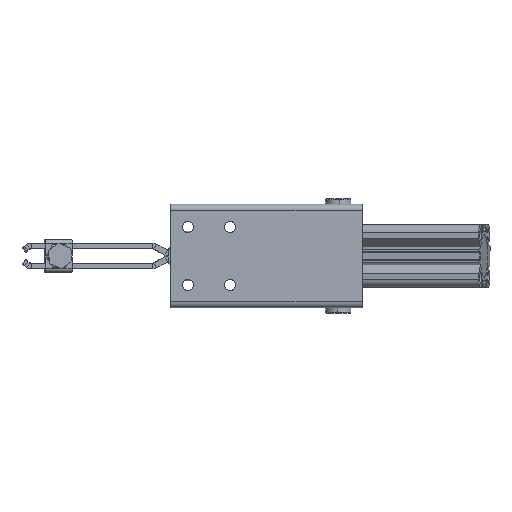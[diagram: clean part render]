
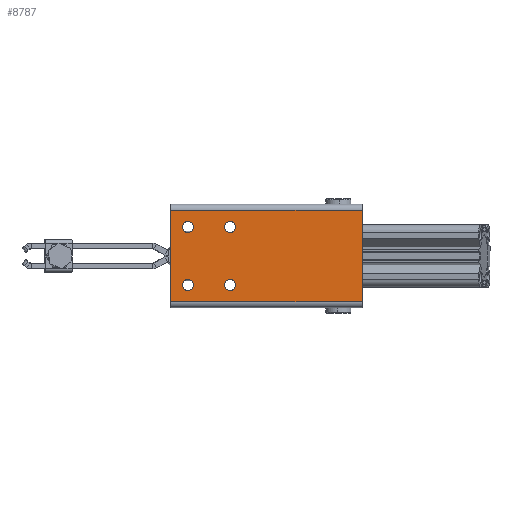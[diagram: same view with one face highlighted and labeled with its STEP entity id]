
A CAD part, front view. The second image highlights one B-rep face of the part: STEP entity #8787.
In plain terms, the highlighted planar face has unit normal (0, -1, 0).
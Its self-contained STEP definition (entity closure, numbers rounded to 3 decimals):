
#334 = AXIS2_PLACEMENT_3D ( 'NONE', #12590, #2152, #14338 ) ;
#777 = CIRCLE ( 'NONE', #19373, 4.25 ) ;
#979 = LINE ( 'NONE', #20436, #19555 ) ;
#1349 = CARTESIAN_POINT ( 'NONE',  ( -44.461, -3.75, 0. ) ) ;
#1666 = CARTESIAN_POINT ( 'NONE',  ( 22., -3.75, -17.25 ) ) ;
#1754 = AXIS2_PLACEMENT_3D ( 'NONE', #4587, #16783, #6347 ) ;
#2003 = FACE_OUTER_BOUND ( 'NONE', #22138, .T. ) ;
#2152 = DIRECTION ( 'NONE',  ( 0., 1., 0. ) ) ;
#2339 = EDGE_LOOP ( 'NONE', ( #16306, #11824 ) ) ;
#2486 = CIRCLE ( 'NONE', #11271, 4.25 ) ;
#2602 = CARTESIAN_POINT ( 'NONE',  ( 98.5, -3.75, -125. ) ) ;
#2691 = CARTESIAN_POINT ( 'NONE',  ( 22., -3.75, -13. ) ) ;
#2914 = ORIENTED_EDGE ( 'NONE', *, *, #8030, .T. ) ;
#3318 = LINE ( 'NONE', #1349, #21317 ) ;
#3354 = EDGE_CURVE ( 'NONE', #13686, #12426, #11187, .T. ) ;
#3551 = ORIENTED_EDGE ( 'NONE', *, *, #16859, .T. ) ;
#3610 = CARTESIAN_POINT ( 'NONE',  ( 22., -3.75, -8.75 ) ) ;
#3664 = CARTESIAN_POINT ( 'NONE',  ( -22., -3.75, -49.25 ) ) ;
#3676 = VERTEX_POINT ( 'NONE', #4415 ) ;
#3942 = EDGE_CURVE ( 'NONE', #22286, #15249, #777, .T. ) ;
#3953 = VERTEX_POINT ( 'NONE', #19046 ) ;
#4018 = AXIS2_PLACEMENT_3D ( 'NONE', #17730, #7281, #19484 ) ;
#4415 = CARTESIAN_POINT ( 'NONE',  ( 22., -3.75, -49.25 ) ) ;
#4442 = DIRECTION ( 'NONE',  ( 0., 0., 1. ) ) ;
#4452 = VERTEX_POINT ( 'NONE', #15262 ) ;
#4587 = CARTESIAN_POINT ( 'NONE',  ( -22., -3.75, -13. ) ) ;
#4681 = CARTESIAN_POINT ( 'NONE',  ( -22., -3.75, -13. ) ) ;
#4808 = DIRECTION ( 'NONE',  ( 0., 0., -1. ) ) ;
#4856 = ORIENTED_EDGE ( 'NONE', *, *, #20316, .F. ) ;
#5049 = LINE ( 'NONE', #20207, #14335 ) ;
#5298 = CIRCLE ( 'NONE', #6686, 4.25 ) ;
#5406 = CARTESIAN_POINT ( 'NONE',  ( 22., -3.75, -13. ) ) ;
#5539 = CARTESIAN_POINT ( 'NONE',  ( -34.5, -3.75, -145. ) ) ;
#5552 = VERTEX_POINT ( 'NONE', #8354 ) ;
#5602 = EDGE_CURVE ( 'NONE', #15990, #12436, #16837, .T. ) ;
#5647 = EDGE_LOOP ( 'NONE', ( #2914, #20464 ) ) ;
#5767 = EDGE_CURVE ( 'NONE', #3676, #6580, #8905, .T. ) ;
#6004 = DIRECTION ( 'NONE',  ( 0., 1., 0. ) ) ;
#6176 = PLANE ( 'NONE',  #17504 ) ;
#6290 = CIRCLE ( 'NONE', #20892, 4.25 ) ;
#6347 = DIRECTION ( 'NONE',  ( 0., 0., 1. ) ) ;
#6435 = DIRECTION ( 'NONE',  ( 0., 0., 1. ) ) ;
#6580 = VERTEX_POINT ( 'NONE', #10999 ) ;
#6595 = EDGE_LOOP ( 'NONE', ( #11354, #3551 ) ) ;
#6686 = AXIS2_PLACEMENT_3D ( 'NONE', #4681, #16876, #6435 ) ;
#7045 = ORIENTED_EDGE ( 'NONE', *, *, #5602, .F. ) ;
#7158 = DIRECTION ( 'NONE',  ( 0., 0., 1. ) ) ;
#7281 = DIRECTION ( 'NONE',  ( 0., 1., 0. ) ) ;
#8030 = EDGE_CURVE ( 'NONE', #3953, #5552, #5298, .T. ) ;
#8354 = CARTESIAN_POINT ( 'NONE',  ( -22., -3.75, -17.25 ) ) ;
#8500 = DIRECTION ( 'NONE',  ( 0., 0., 1. ) ) ;
#8787 = ADVANCED_FACE ( 'NONE', ( #2003, #10750, #11293, #15359, #20032 ), #6176, .F. ) ;
#8905 = CIRCLE ( 'NONE', #4018, 4.25 ) ;
#9669 = ORIENTED_EDGE ( 'NONE', *, *, #20867, .F. ) ;
#9684 = DIRECTION ( 'NONE',  ( 0., 0., 1. ) ) ;
#9753 = DIRECTION ( 'NONE',  ( -1., 0., 0. ) ) ;
#10135 = DIRECTION ( 'NONE',  ( 1., 0., 0. ) ) ;
#10421 = DIRECTION ( 'NONE',  ( 0., 1., 0. ) ) ;
#10750 = FACE_BOUND ( 'NONE', #2339, .T. ) ;
#10898 = AXIS2_PLACEMENT_3D ( 'NONE', #5406, #17607, #7158 ) ;
#10900 = EDGE_CURVE ( 'NONE', #6580, #3676, #2486, .T. ) ;
#10999 = CARTESIAN_POINT ( 'NONE',  ( 22., -3.75, -40.75 ) ) ;
#11187 = CIRCLE ( 'NONE', #10898, 4.25 ) ;
#11271 = AXIS2_PLACEMENT_3D ( 'NONE', #16444, #6004, #18213 ) ;
#11293 = FACE_BOUND ( 'NONE', #15555, .T. ) ;
#11354 = ORIENTED_EDGE ( 'NONE', *, *, #3354, .T. ) ;
#11824 = ORIENTED_EDGE ( 'NONE', *, *, #5767, .T. ) ;
#11845 = ORIENTED_EDGE ( 'NONE', *, *, #15771, .F. ) ;
#12426 = VERTEX_POINT ( 'NONE', #1666 ) ;
#12436 = VERTEX_POINT ( 'NONE', #19158 ) ;
#12590 = CARTESIAN_POINT ( 'NONE',  ( -22., -3.75, -45. ) ) ;
#13293 = CARTESIAN_POINT ( 'NONE',  ( 34.5, -3.75, -145. ) ) ;
#13409 = VERTEX_POINT ( 'NONE', #13293 ) ;
#13686 = VERTEX_POINT ( 'NONE', #3610 ) ;
#13745 = CARTESIAN_POINT ( 'NONE',  ( -34.5, -3.75, -125. ) ) ;
#13862 = CARTESIAN_POINT ( 'NONE',  ( -22., -3.75, -40.75 ) ) ;
#14335 = VECTOR ( 'NONE', #9753, 1000. ) ;
#14338 = DIRECTION ( 'NONE',  ( 0., 0., 1. ) ) ;
#14685 = ORIENTED_EDGE ( 'NONE', *, *, #3942, .T. ) ;
#14861 = DIRECTION ( 'NONE',  ( 0., 1., 0. ) ) ;
#14878 = DIRECTION ( 'NONE',  ( 0., 1., 0. ) ) ;
#15249 = VERTEX_POINT ( 'NONE', #3664 ) ;
#15262 = CARTESIAN_POINT ( 'NONE',  ( 34.5, -3.75, 0. ) ) ;
#15359 = FACE_BOUND ( 'NONE', #5647, .T. ) ;
#15555 = EDGE_LOOP ( 'NONE', ( #14685, #18623 ) ) ;
#15771 = EDGE_CURVE ( 'NONE', #12436, #4452, #3318, .T. ) ;
#15990 = VERTEX_POINT ( 'NONE', #5539 ) ;
#16306 = ORIENTED_EDGE ( 'NONE', *, *, #10900, .T. ) ;
#16444 = CARTESIAN_POINT ( 'NONE',  ( 22., -3.75, -45. ) ) ;
#16783 = DIRECTION ( 'NONE',  ( 0., 1., 0. ) ) ;
#16837 = LINE ( 'NONE', #13745, #20909 ) ;
#16859 = EDGE_CURVE ( 'NONE', #12426, #13686, #6290, .T. ) ;
#16876 = DIRECTION ( 'NONE',  ( 0., 1., 0. ) ) ;
#16928 = EDGE_CURVE ( 'NONE', #5552, #3953, #19666, .T. ) ;
#17383 = CIRCLE ( 'NONE', #334, 4.25 ) ;
#17504 = AXIS2_PLACEMENT_3D ( 'NONE', #2602, #14861, #9684 ) ;
#17607 = DIRECTION ( 'NONE',  ( 0., 1., 0. ) ) ;
#17730 = CARTESIAN_POINT ( 'NONE',  ( 22., -3.75, -45. ) ) ;
#18213 = DIRECTION ( 'NONE',  ( 0., 0., 1. ) ) ;
#18605 = EDGE_CURVE ( 'NONE', #15249, #22286, #17383, .T. ) ;
#18623 = ORIENTED_EDGE ( 'NONE', *, *, #18605, .T. ) ;
#19046 = CARTESIAN_POINT ( 'NONE',  ( -22., -3.75, -8.75 ) ) ;
#19158 = CARTESIAN_POINT ( 'NONE',  ( -34.5, -3.75, 0. ) ) ;
#19373 = AXIS2_PLACEMENT_3D ( 'NONE', #20844, #10421, #22587 ) ;
#19484 = DIRECTION ( 'NONE',  ( 0., 0., 1. ) ) ;
#19555 = VECTOR ( 'NONE', #4808, 1000. ) ;
#19666 = CIRCLE ( 'NONE', #1754, 4.25 ) ;
#20032 = FACE_BOUND ( 'NONE', #6595, .T. ) ;
#20207 = CARTESIAN_POINT ( 'NONE',  ( 98.5, -3.75, -145. ) ) ;
#20316 = EDGE_CURVE ( 'NONE', #4452, #13409, #979, .T. ) ;
#20436 = CARTESIAN_POINT ( 'NONE',  ( 34.5, -3.75, -125. ) ) ;
#20464 = ORIENTED_EDGE ( 'NONE', *, *, #16928, .T. ) ;
#20844 = CARTESIAN_POINT ( 'NONE',  ( -22., -3.75, -45. ) ) ;
#20867 = EDGE_CURVE ( 'NONE', #13409, #15990, #5049, .T. ) ;
#20892 = AXIS2_PLACEMENT_3D ( 'NONE', #2691, #14878, #4442 ) ;
#20909 = VECTOR ( 'NONE', #8500, 1000. ) ;
#21317 = VECTOR ( 'NONE', #10135, 1000. ) ;
#22138 = EDGE_LOOP ( 'NONE', ( #4856, #11845, #7045, #9669 ) ) ;
#22286 = VERTEX_POINT ( 'NONE', #13862 ) ;
#22587 = DIRECTION ( 'NONE',  ( 0., 0., 1. ) ) ;
